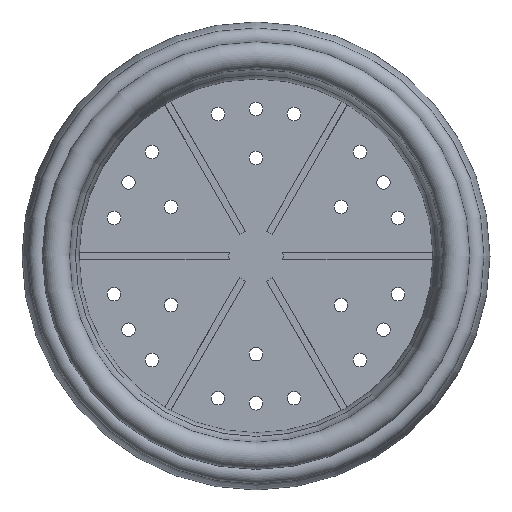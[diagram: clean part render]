
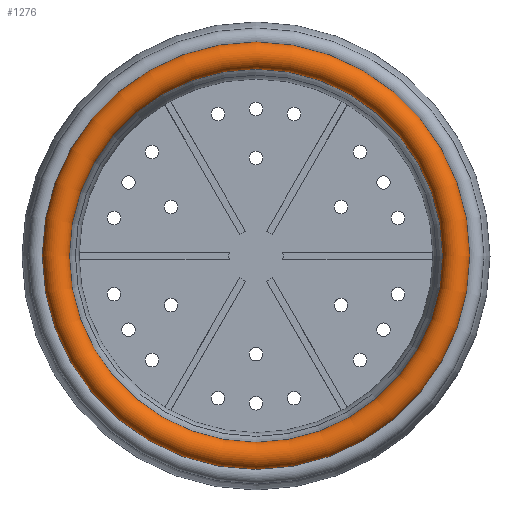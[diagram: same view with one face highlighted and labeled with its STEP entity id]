
A CAD part, top view. The second image highlights one B-rep face of the part: STEP entity #1276.
In plain terms, the highlighted toroidal (fillet/blend) face has major radius 74 mm and minor radius 5 mm.
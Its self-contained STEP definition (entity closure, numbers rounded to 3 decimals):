
#18=TOROIDAL_SURFACE('',#1441,74.,5.);
#154=FACE_OUTER_BOUND('',#245,.T.);
#245=EDGE_LOOP('',(#1097,#1098,#1099,#1100));
#522=CIRCLE('',#1440,77.83);
#523=CIRCLE('',#1442,69.);
#524=CIRCLE('',#1443,5.);
#643=VERTEX_POINT('',#2201);
#644=VERTEX_POINT('',#2205);
#810=EDGE_CURVE('',#643,#643,#522,.T.);
#812=EDGE_CURVE('',#644,#644,#523,.T.);
#813=EDGE_CURVE('',#644,#643,#524,.T.);
#1097=ORIENTED_EDGE('',*,*,#812,.F.);
#1098=ORIENTED_EDGE('',*,*,#813,.T.);
#1099=ORIENTED_EDGE('',*,*,#810,.T.);
#1100=ORIENTED_EDGE('',*,*,#813,.F.);
#1276=ADVANCED_FACE('',(#154),#18,.T.);
#1440=AXIS2_PLACEMENT_3D('',#2202,#1821,#1822);
#1441=AXIS2_PLACEMENT_3D('',#2204,#1824,#1825);
#1442=AXIS2_PLACEMENT_3D('',#2206,#1826,#1827);
#1443=AXIS2_PLACEMENT_3D('',#2207,#1828,#1829);
#1821=DIRECTION('center_axis',(0.,0.,1.));
#1822=DIRECTION('ref_axis',(1.,0.,0.));
#1824=DIRECTION('center_axis',(0.,0.,1.));
#1825=DIRECTION('ref_axis',(1.,0.,0.));
#1826=DIRECTION('center_axis',(0.,0.,1.));
#1827=DIRECTION('ref_axis',(1.,0.,0.));
#1828=DIRECTION('center_axis',(0.,-1.,0.));
#1829=DIRECTION('ref_axis',(-1.,0.,0.));
#2201=CARTESIAN_POINT('',(-77.83,0.,91.786));
#2202=CARTESIAN_POINT('Origin',(0.,0.,91.786));
#2204=CARTESIAN_POINT('Origin',(0.,0.,95.));
#2205=CARTESIAN_POINT('',(-69.,0.,95.));
#2206=CARTESIAN_POINT('Origin',(0.,0.,95.));
#2207=CARTESIAN_POINT('Origin',(-74.,0.,95.));
